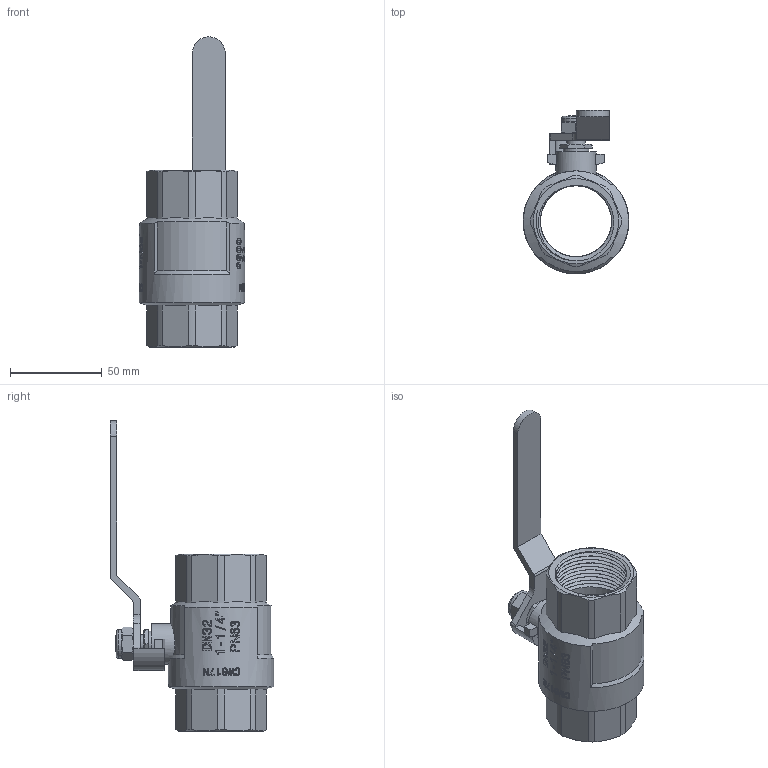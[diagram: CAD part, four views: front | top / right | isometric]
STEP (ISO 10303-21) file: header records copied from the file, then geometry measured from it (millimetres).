
FILE_DESCRIPTION(/* description */ (''),/* implementation_level */ '2;1');
FILE_NAME(/* name */ 'F:\Артём\00000\Работа удаленка\0\B\VT.314.N.07.stp',/* time_stamp */ '2021-02-03T15:43:36+03:00',/* author */ ('almis'),/* organization */ (''),/* preprocessor_version */ 'ST-DEVELOPER v18',/* originating_system */ 'Autodesk Inventor 2020',/* authorisation */ '');
FILE_SCHEMA (('AUTOMOTIVE_DESIGN { 1 0 10303 214 3 1 1 }'));
Length unit declared in the file: millimetre
Products named in the file (1): VT.314_ВВ_1-1%4
Bounding box: 57.7 x 89.31 x 169.6 mm (x, y, z)
Volume: 109871.3 mm3; surface area: 47221.8 mm2
Topology: 1 solids, 1 shells, 585 faces, 1572 edges, 1048 vertices
Faces by surface type: plane 229, bspline 225, cylinder 119, cone 10, torus 2
Full cylindrical faces by diameter (mm): 10.109 x1, 13.99 x1, 15.715 x1, 22 x1, 38.9 x20, 43.5 x12, 57.5 x1
Entity records: 28798 total; most frequent: CARTESIAN_POINT 15349, ORIENTED_EDGE 3144, DIRECTION 1982, EDGE_CURVE 1572, VERTEX_POINT 1048, LINE 722, VECTOR 722, EDGE_LOOP 646
